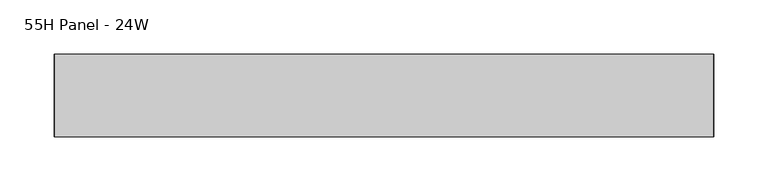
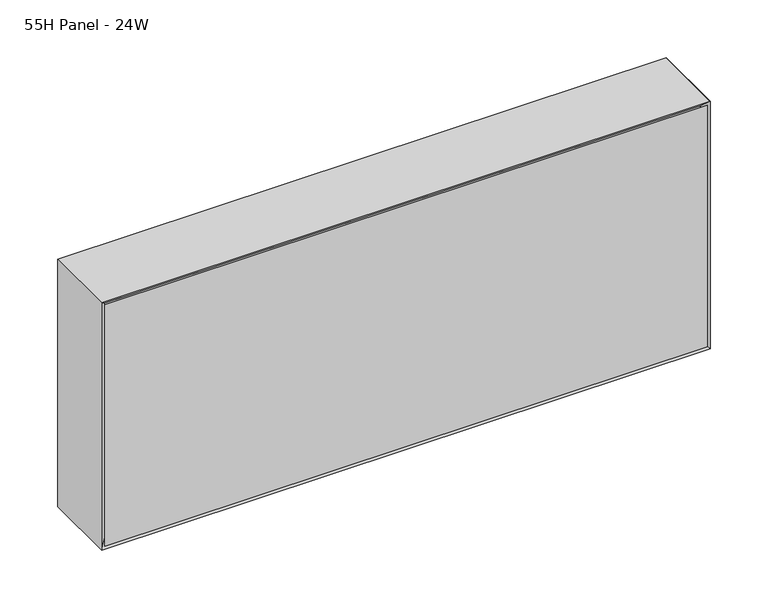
"""IFC4 building model written with IfcOpenShell, lengths in millimetres: furniture geometry, Steelcase - Montage - Frame - 10H - Enhanced Standard - Single Stack-On : 55H Panel - 24W."""

from ifc_helpers import new_model, si_unit, frame, origin, place, context, project, spatial, polyline, outline, extrude, faceted_brep, source, transform, mapped, element, save


def furniture_55h_panel_24w_e449fae9(model_context):
    return source(origin(), model_context, "Body", "SolidModel", [
        faceted_brep([(600.0750027, 31.7500194, 1651.0127415), (9.5250028, 31.7500194, 1651.0127415), (9.5250028, 31.7500194, 1408.1125), (600.0750027, 31.7500194, 1408.1125), (606.425, 38.1000194, 1657.3627415), (606.425, 38.1000194, 1401.7625), (3.175, 38.1000194, 1401.7625), (3.175, 38.1000194, 1657.3627415)], [[[0, 1, 2, 3]], [[4, 5, 6, 7]], [[4, 0, 3, 5]], [[5, 3, 2, 6]], [[6, 2, 1, 7]], [[7, 1, 0, 4]]]),
        faceted_brep([(600.0750027, -31.7500194, 1651.0127415), (600.0750027, -31.7500194, 1408.1125), (9.5250028, -31.7500194, 1408.1125), (9.5250028, -31.7500194, 1651.0127415), (606.425, -38.1000194, 1657.3627415), (3.175, -38.1000194, 1657.3627415), (3.175, -38.1000194, 1401.7625), (606.425, -38.1000194, 1401.7625)], [[[0, 1, 2, 3]], [[4, 5, 6, 7]], [[4, 7, 1, 0]], [[7, 6, 2, 1]], [[6, 5, 3, 2]], [[5, 4, 0, 3]]]),
        faceted_brep([(609.6, -38.1000015, 1398.5875), (609.6, 38.1000015, 1398.5875), (609.6, 38.1000015, 1660.5377415), (609.6, -38.1000106, 1660.5377414), (0.0, 38.1000015, 1398.5875), (0.0, -38.1000015, 1398.5875), (0.0, -38.1000015, 1660.5377415), (0.0, 38.1000015, 1660.5377415), (6.3500484, 31.749953, 1404.9375484), (603.2499879, 31.749953, 1404.9375484), (6.35, -31.749953, 1404.9375484), (603.2499879, -31.749953, 1404.9375484), (6.3500169, 31.7499846, 1654.1877245), (6.3500012, -31.7500003, 1654.187693), (603.2499879, -31.7499973, 1654.187693), (603.2499879, 31.7499885, 1654.1877293)], [[[0, 1, 2, 3]], [[4, 5, 6, 7]], [[1, 0, 5, 4]], [[1, 4, 8, 9]], [[9, 8, 10, 11]], [[5, 0, 11, 10]], [[4, 7, 12, 8]], [[6, 5, 10, 13]], [[10, 8, 12, 13]], [[9, 11, 14, 15]], [[0, 3, 14, 11]], [[2, 1, 9, 15]], [[3, 2, 15, 14]], [[7, 6, 13, 12]]]),
        faceted_brep([(609.6, -38.1000015, 1660.5377415), (0.0, -38.1000015, 1660.5377415), (6.3500484, -31.749953, 1654.187693), (603.2499516, -31.749953, 1654.187693), (6.3500484, 31.749953, 1654.187693), (603.2499516, 31.749953, 1654.187693), (0.0, 38.1000015, 1660.5377415), (609.6, 38.1000015, 1660.5377415)], [[[0, 1, 2, 3]], [[3, 2, 4, 5]], [[6, 7, 5, 4]], [[1, 0, 7, 6]], [[2, 1, 6, 4]], [[0, 3, 5, 7]]]),
        extrude(outline(polyline([(603.2499879, 31.7500016), (603.2499879, -31.7499985), (6.35, -31.7499985), (6.35, 31.7500016), (603.2499879, 31.7500016)])), frame((0.0, 0.0, 1404.9327145), z_axis=(0.0, 0.0, 1.0), x_axis=(1.0, 0.0, 0.0)), (0.0, 0.0, 1.0), 249.2549785),
    ])


if __name__ == "__main__":
    model = new_model("IFC4")
    model_context = context("Model", 3, world=origin())
    ifc_project = project(units=[si_unit("LENGTHUNIT", "METRE", prefix="MILLI")], contexts=[model_context])
    site = spatial("IfcSite", under=ifc_project)
    building = spatial("IfcBuilding", under=site)
    placement = place(None, origin())
    furniture_55h_panel_24w_shape = furniture_55h_panel_24w_e449fae9(model_context)
    element("IfcFurniture", 1, ObjectType="Steelcase - Montage - Frame - 10H - Enhanced Standard - Single Stack-On : 55H Panel - 24W", at=placement, inside=building, context=model_context, shape_type="MappedRepresentation", body=[
        mapped(furniture_55h_panel_24w_shape, transform((0.0, 0.0, 0.0), x_axis=(1.0, 0.0, 0.0), y_axis=(0.0, 1.0, 0.0), z_axis=(0.0, 0.0, 1.0))),
    ])
    save(model, "model.ifc")
